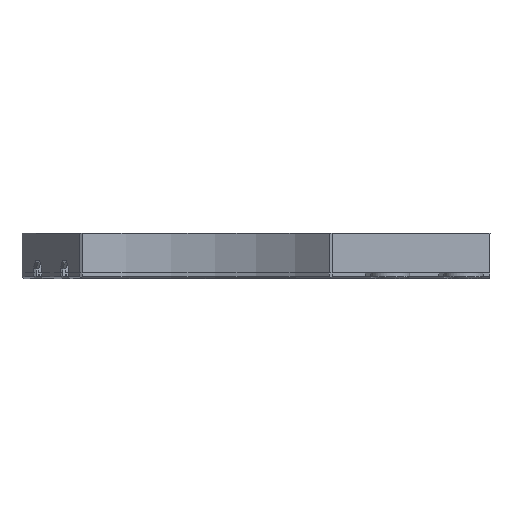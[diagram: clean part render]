
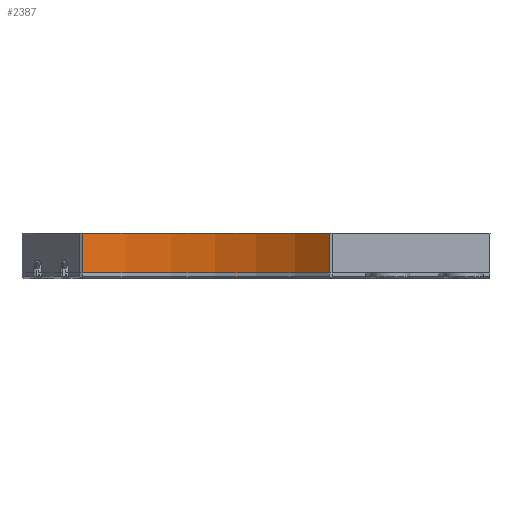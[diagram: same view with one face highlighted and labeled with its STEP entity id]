
A CAD part, front view. The second image highlights one B-rep face of the part: STEP entity #2387.
In plain terms, the highlighted cylindrical face has radius 52.6 mm (diameter 105.2 mm), a partial arc.
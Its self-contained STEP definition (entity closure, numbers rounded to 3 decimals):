
#408 = PLANE('',#409);
#409 = AXIS2_PLACEMENT_3D('',#410,#411,#412);
#410 = CARTESIAN_POINT('',(-13.717,51.194,1.2));
#411 = DIRECTION('',(0.502,0.865,0.));
#412 = DIRECTION('',(0.,0.,1.));
#436 = PLANE('',#437);
#437 = AXIS2_PLACEMENT_3D('',#438,#439,#440);
#438 = CARTESIAN_POINT('',(37.194,37.194,9.2));
#439 = DIRECTION('',(0.,0.,-1.));
#440 = DIRECTION('',(-1.,0.,0.));
#1036 = VERTEX_POINT('',#1037);
#1037 = CARTESIAN_POINT('',(36.91,37.476,9.2));
#1051 = PLANE('',#1052);
#1052 = AXIS2_PLACEMENT_3D('',#1053,#1054,#1055);
#1053 = CARTESIAN_POINT('',(37.477,37.477,1.2));
#1054 = DIRECTION('',(0.002,-1.,0.));
#1055 = DIRECTION('',(0.,0.,1.));
#1063 = EDGE_CURVE('',#1036,#1064,#1066,.T.);
#1064 = VERTEX_POINT('',#1065);
#1065 = CARTESIAN_POINT('',(-13.227,50.91,9.2));
#1066 = SURFACE_CURVE('',#1067,(#1072,#1083),.PCURVE_S1.);
#1067 = CIRCLE('',#1068,52.6);
#1068 = AXIS2_PLACEMENT_3D('',#1069,#1070,#1071);
#1069 = CARTESIAN_POINT('',(0.,0.,9.2));
#1070 = DIRECTION('',(0.,0.,1.));
#1071 = DIRECTION('',(1.,0.,0.));
#1072 = PCURVE('',#436,#1073);
#1073 = DEFINITIONAL_REPRESENTATION('',(#1074),#1082);
#1074 = ( BOUNDED_CURVE() B_SPLINE_CURVE(2,(#1075,#1076,#1077,#1078,
#1079,#1080,#1081),.UNSPECIFIED.,.T.,.F.) B_SPLINE_CURVE_WITH_KNOTS((1,2
    ,2,2,2,1),(-2.094,0.,2.094,4.189,
6.283,8.378),.UNSPECIFIED.) CURVE() 
GEOMETRIC_REPRESENTATION_ITEM() RATIONAL_B_SPLINE_CURVE((1.,0.5,1.,0.5,
1.,0.5,1.)) REPRESENTATION_ITEM('') );
#1075 = CARTESIAN_POINT('',(-15.406,-37.194));
#1076 = CARTESIAN_POINT('',(-15.406,53.912));
#1077 = CARTESIAN_POINT('',(63.494,8.359));
#1078 = CARTESIAN_POINT('',(142.394,-37.194));
#1079 = CARTESIAN_POINT('',(63.494,-82.747));
#1080 = CARTESIAN_POINT('',(-15.406,-128.3));
#1081 = CARTESIAN_POINT('',(-15.406,-37.194));
#1082 = ( GEOMETRIC_REPRESENTATION_CONTEXT(2) 
PARAMETRIC_REPRESENTATION_CONTEXT() REPRESENTATION_CONTEXT('2D SPACE',''
  ) );
#1083 = PCURVE('',#1084,#1089);
#1084 = CYLINDRICAL_SURFACE('',#1085,52.6);
#1085 = AXIS2_PLACEMENT_3D('',#1086,#1087,#1088);
#1086 = CARTESIAN_POINT('',(0.,0.,1.2));
#1087 = DIRECTION('',(0.,0.,-1.));
#1088 = DIRECTION('',(1.,0.,0.));
#1089 = DEFINITIONAL_REPRESENTATION('',(#1090),#1094);
#1090 = LINE('',#1091,#1092);
#1091 = CARTESIAN_POINT('',(0.,-8.));
#1092 = VECTOR('',#1093,1.);
#1093 = DIRECTION('',(-1.,0.));
#1094 = ( GEOMETRIC_REPRESENTATION_CONTEXT(2) 
PARAMETRIC_REPRESENTATION_CONTEXT() REPRESENTATION_CONTEXT('2D SPACE',''
  ) );
#1175 = VERTEX_POINT('',#1176);
#1176 = CARTESIAN_POINT('',(-13.227,50.91,1.2));
#1202 = EDGE_CURVE('',#1175,#1064,#1203,.T.);
#1203 = SURFACE_CURVE('',#1204,(#1208,#1215),.PCURVE_S1.);
#1204 = LINE('',#1205,#1206);
#1205 = CARTESIAN_POINT('',(-13.227,50.91,1.2));
#1206 = VECTOR('',#1207,1.);
#1207 = DIRECTION('',(0.,0.,1.));
#1208 = PCURVE('',#408,#1209);
#1209 = DEFINITIONAL_REPRESENTATION('',(#1210),#1214);
#1210 = LINE('',#1211,#1212);
#1211 = CARTESIAN_POINT('',(0.,0.567));
#1212 = VECTOR('',#1213,1.);
#1213 = DIRECTION('',(1.,0.));
#1214 = ( GEOMETRIC_REPRESENTATION_CONTEXT(2) 
PARAMETRIC_REPRESENTATION_CONTEXT() REPRESENTATION_CONTEXT('2D SPACE',''
  ) );
#1215 = PCURVE('',#1084,#1216);
#1216 = DEFINITIONAL_REPRESENTATION('',(#1217),#1221);
#1217 = LINE('',#1218,#1219);
#1218 = CARTESIAN_POINT('',(-1.825,0.));
#1219 = VECTOR('',#1220,1.);
#1220 = DIRECTION('',(0.,-1.));
#1221 = ( GEOMETRIC_REPRESENTATION_CONTEXT(2) 
PARAMETRIC_REPRESENTATION_CONTEXT() REPRESENTATION_CONTEXT('2D SPACE',''
  ) );
#2387 = ADVANCED_FACE('',(#2388),#1084,.F.);
#2388 = FACE_BOUND('',#2389,.T.);
#2389 = EDGE_LOOP('',(#2390,#2419,#2440,#2441));
#2390 = ORIENTED_EDGE('',*,*,#2391,.F.);
#2391 = EDGE_CURVE('',#2392,#1175,#2394,.T.);
#2392 = VERTEX_POINT('',#2393);
#2393 = CARTESIAN_POINT('',(36.91,37.476,1.2));
#2394 = SURFACE_CURVE('',#2395,(#2400,#2407),.PCURVE_S1.);
#2395 = CIRCLE('',#2396,52.6);
#2396 = AXIS2_PLACEMENT_3D('',#2397,#2398,#2399);
#2397 = CARTESIAN_POINT('',(0.,0.,1.2));
#2398 = DIRECTION('',(0.,0.,1.));
#2399 = DIRECTION('',(1.,0.,0.));
#2400 = PCURVE('',#1084,#2401);
#2401 = DEFINITIONAL_REPRESENTATION('',(#2402),#2406);
#2402 = LINE('',#2403,#2404);
#2403 = CARTESIAN_POINT('',(0.,0.));
#2404 = VECTOR('',#2405,1.);
#2405 = DIRECTION('',(-1.,0.));
#2406 = ( GEOMETRIC_REPRESENTATION_CONTEXT(2) 
PARAMETRIC_REPRESENTATION_CONTEXT() REPRESENTATION_CONTEXT('2D SPACE',''
  ) );
#2407 = PCURVE('',#2408,#2413);
#2408 = CYLINDRICAL_SURFACE('',#2409,52.6);
#2409 = AXIS2_PLACEMENT_3D('',#2410,#2411,#2412);
#2410 = CARTESIAN_POINT('',(0.,0.,0.));
#2411 = DIRECTION('',(0.,0.,-1.));
#2412 = DIRECTION('',(1.,0.,0.));
#2413 = DEFINITIONAL_REPRESENTATION('',(#2414),#2418);
#2414 = LINE('',#2415,#2416);
#2415 = CARTESIAN_POINT('',(0.,-1.2));
#2416 = VECTOR('',#2417,1.);
#2417 = DIRECTION('',(-1.,0.));
#2418 = ( GEOMETRIC_REPRESENTATION_CONTEXT(2) 
PARAMETRIC_REPRESENTATION_CONTEXT() REPRESENTATION_CONTEXT('2D SPACE',''
  ) );
#2419 = ORIENTED_EDGE('',*,*,#2420,.T.);
#2420 = EDGE_CURVE('',#2392,#1036,#2421,.T.);
#2421 = SURFACE_CURVE('',#2422,(#2426,#2433),.PCURVE_S1.);
#2422 = LINE('',#2423,#2424);
#2423 = CARTESIAN_POINT('',(36.91,37.476,1.2));
#2424 = VECTOR('',#2425,1.);
#2425 = DIRECTION('',(0.,0.,1.));
#2426 = PCURVE('',#1084,#2427);
#2427 = DEFINITIONAL_REPRESENTATION('',(#2428),#2432);
#2428 = LINE('',#2429,#2430);
#2429 = CARTESIAN_POINT('',(-0.793,0.));
#2430 = VECTOR('',#2431,1.);
#2431 = DIRECTION('',(0.,-1.));
#2432 = ( GEOMETRIC_REPRESENTATION_CONTEXT(2) 
PARAMETRIC_REPRESENTATION_CONTEXT() REPRESENTATION_CONTEXT('2D SPACE',''
  ) );
#2433 = PCURVE('',#1051,#2434);
#2434 = DEFINITIONAL_REPRESENTATION('',(#2435),#2439);
#2435 = LINE('',#2436,#2437);
#2436 = CARTESIAN_POINT('',(0.,0.567));
#2437 = VECTOR('',#2438,1.);
#2438 = DIRECTION('',(1.,0.));
#2439 = ( GEOMETRIC_REPRESENTATION_CONTEXT(2) 
PARAMETRIC_REPRESENTATION_CONTEXT() REPRESENTATION_CONTEXT('2D SPACE',''
  ) );
#2440 = ORIENTED_EDGE('',*,*,#1063,.T.);
#2441 = ORIENTED_EDGE('',*,*,#1202,.F.);
